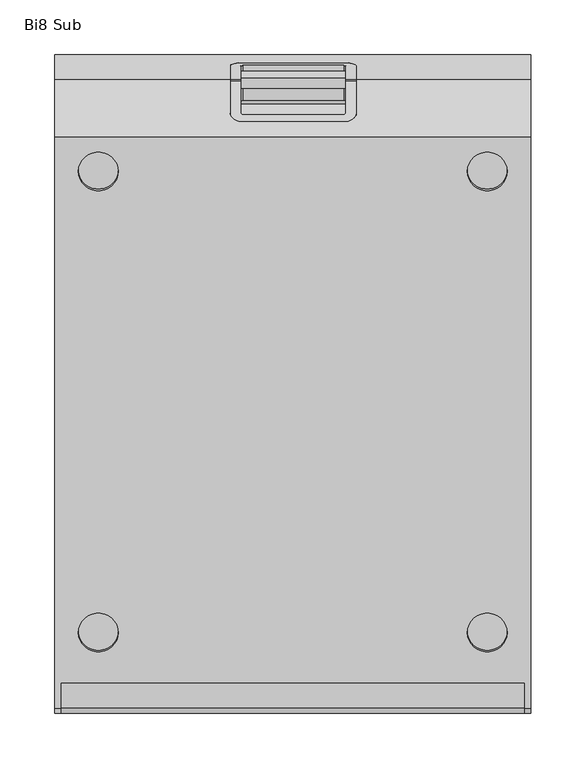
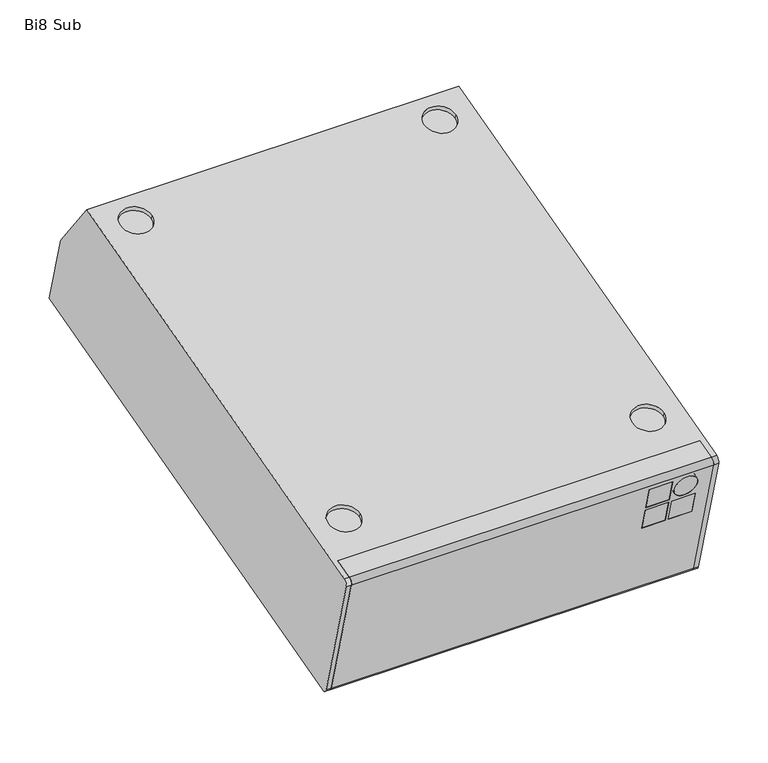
"""IFC4 building model written with IfcOpenShell, lengths in millimetres: proxy geometry, d&b Bi8 Subwoofer : Bi8 Sub."""

from ifc_helpers import new_model, si_unit, point, frame, frame_2d, origin, place, context, project, spatial, polyline, circle_curve, ellipse_curve, trimmed, segment, composite_curve, outline, extrude, source, transform, mapped, element, save
from ifc_brep_helpers import plane_surface, cylinder_surface, revolved_surface, advanced_brep


def bi8_sub_5dedd92b(model_context):
    return source(origin(), model_context, "Body", "SolidModel", [
        advanced_brep(
        [(-212.0, -299.8534418, -1.4056788), (-212.0, -295.6108011, 5.9427904), (-212.0, -251.6115635, -158.2646001), (-212.0, -258.9600327, -154.0219594), (212.0, -299.8534418, -1.4056788), (212.0, -258.9600327, -154.0219594), (212.0, -251.6115635, -158.2646001), (212.0, -295.6108011, 5.9427904), (164.8089888, -290.4138169, -36.6348387), (164.8089888, -283.2890229, -63.2249317), (137.2808989, -283.2890229, -63.2249317), (137.2808989, -290.4138169, -36.6348387), (196.2696629, -290.4138169, -36.6348387), (196.2696629, -283.2890229, -63.2249317), (168.741573, -283.2890229, -63.2249317), (168.741573, -290.4138169, -36.6348387), (164.8089888, -298.5564385, -6.2461611), (164.8089888, -291.4316446, -32.836254), (137.2808989, -291.4316446, -32.836254), (137.2808989, -298.5564385, -6.2461611), (168.741573, -294.9940415, -19.5412075), (196.2696629, -294.9940415, -19.5412075), (164.8089888, -277.493468, -61.6720174), (164.8089888, -284.6182619, -35.0819245), (137.2808989, -284.6182619, -35.0819245), (137.2808989, -277.493468, -61.6720174), (196.2696629, -277.493468, -61.6720174), (196.2696629, -284.6182619, -35.0819245), (168.741573, -284.6182619, -35.0819245), (168.741573, -277.493468, -61.6720174), (164.8089888, -285.6360896, -31.2833398), (164.8089888, -292.7608836, -4.6932468), (137.2808989, -292.7608836, -4.6932468), (137.2808989, -285.6360896, -31.2833398), (196.2696629, -289.1984866, -17.9882933), (168.741573, -289.1984866, -17.9882933)],
        [
            (0, 1, circle_curve(frame((-212.0, -294.0578869, 0.1472354), z_axis=(-1.0, 0.0, 0.0), x_axis=(0.0, 0.9659258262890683, 0.2588190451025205)), 6.0)),
            (1, 2),
            (2, 3, circle_curve(frame((-212.0, -253.1644777, -152.4690451), z_axis=(-1.0, 0.0, 0.0), x_axis=(0.0, 0.9659258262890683, 0.2588190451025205)), 6.0)),
            (3, 0),
            (4, 5),
            (5, 6, circle_curve(frame((212.0, -253.1644777, -152.4690451), z_axis=(1.0, 0.0, 0.0), x_axis=(0.0, 0.9659258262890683, 0.2588190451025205)), 6.0)),
            (6, 7),
            (7, 4, circle_curve(frame((212.0, -294.0578869, 0.1472354), z_axis=(1.0, 0.0, 0.0), x_axis=(0.0, 0.9659258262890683, 0.2588190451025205)), 6.0)),
            (3, 5),
            (4, 0),
            (8, 9),
            (9, 10),
            (10, 11),
            (11, 8),
            (12, 13),
            (13, 14),
            (14, 15),
            (15, 12),
            (16, 17),
            (17, 18),
            (18, 19),
            (19, 16),
            (20, 21, circle_curve(frame((182.505618, -294.9940415, -19.5412075), z_axis=(0.0, 0.9659258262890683, 0.2588190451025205), x_axis=(-1.0, 0.0, 0.0)), 13.7640449)),
            (21, 20, circle_curve(frame((182.505618, -294.9940415, -19.5412075), z_axis=(0.0, 0.9659258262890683, 0.2588190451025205), x_axis=(-1.0, 0.0, 0.0)), 13.7640449)),
            (2, 6),
            (7, 1),
            (22, 23),
            (23, 24),
            (24, 25),
            (25, 22),
            (26, 27),
            (27, 28),
            (28, 29),
            (29, 26),
            (30, 31),
            (31, 32),
            (32, 33),
            (33, 30),
            (34, 35, circle_curve(frame((182.505618, -289.1984866, -17.9882933), z_axis=(0.0, -0.9659258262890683, -0.2588190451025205), x_axis=(-1.0, 0.0, 0.0)), 13.7640449)),
            (35, 34, circle_curve(frame((182.505618, -289.1984866, -17.9882933), z_axis=(0.0, -0.9659258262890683, -0.2588190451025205), x_axis=(-1.0, 0.0, 0.0)), 13.7640449)),
            (23, 8),
            (11, 24),
            (10, 25),
            (9, 22),
            (31, 16),
            (19, 32),
            (18, 33),
            (17, 30),
            (12, 27),
            (26, 13),
            (15, 28),
            (14, 29),
            (20, 35),
            (34, 21),
        ],
        [
            plane_surface(frame((-212.0, -288.2623319, 1.7001497), z_axis=(-1.0, 0.0, 0.0), x_axis=(0.0, 0.2588190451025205, -0.9659258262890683))),
            plane_surface(frame((212.0, -288.2623319, 1.7001497), z_axis=(1.0, 0.0, 0.0), x_axis=(0.0, -0.2588190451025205, 0.9659258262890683))),
            plane_surface(frame((-212.0, -258.9600327, -154.0219594), z_axis=(0.0, -0.9659258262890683, -0.2588190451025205), x_axis=(1.0, 0.0, 0.0))),
            cylinder_surface(frame((212.0, -253.1644777, -152.4690451), z_axis=(-1.0, 0.0, 0.0), x_axis=(0.0, 0.9659258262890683, 0.2588190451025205)), 6.0),
            cylinder_surface(frame((212.0, -294.0578869, 0.1472354), z_axis=(-1.0, 0.0, 0.0), x_axis=(0.0, 0.9659258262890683, 0.2588190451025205)), 6.0),
            plane_surface(frame((-212.0, -295.6108011, 5.9427904), z_axis=(0.0, 0.9659258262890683, 0.2588190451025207), x_axis=(1.0, 0.0, 0.0))),
            plane_surface(frame((164.8089888, -290.4138169, -36.6348387), z_axis=(0.0, 0.2588190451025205, -0.9659258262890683), x_axis=(0.0, 0.9659258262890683, 0.2588190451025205))),
            plane_surface(frame((137.2808989, -290.4138169, -36.6348387), z_axis=(1.0, 0.0, 0.0), x_axis=(0.0, 0.9659258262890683, 0.2588190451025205))),
            plane_surface(frame((137.2808989, -283.2890229, -63.2249317), z_axis=(0.0, -0.2588190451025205, 0.9659258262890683), x_axis=(0.0, 0.9659258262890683, 0.2588190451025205))),
            plane_surface(frame((164.8089888, -298.5564385, -6.2461611), z_axis=(0.0, 0.2588190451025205, -0.9659258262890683), x_axis=(0.0, 0.9659258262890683, 0.2588190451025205))),
            plane_surface(frame((137.2808989, -298.5564385, -6.2461611), z_axis=(1.0, 0.0, 0.0), x_axis=(0.0, 0.9659258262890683, 0.2588190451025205))),
            plane_surface(frame((137.2808989, -291.4316446, -32.836254), z_axis=(0.0, -0.2588190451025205, 0.9659258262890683), x_axis=(0.0, 0.9659258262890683, 0.2588190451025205))),
            plane_surface(frame((164.8089888, -283.2890229, -63.2249317), z_axis=(-1.0, 0.0, 0.0), x_axis=(0.0, 0.9659258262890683, 0.2588190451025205))),
            plane_surface(frame((196.2696629, -283.2890229, -63.2249317), z_axis=(-1.0, 0.0, 0.0), x_axis=(0.0, 0.9659258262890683, 0.2588190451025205))),
            plane_surface(frame((196.2696629, -290.4138169, -36.6348387), z_axis=(0.0, 0.2588190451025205, -0.9659258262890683), x_axis=(0.0, 0.9659258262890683, 0.2588190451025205))),
            plane_surface(frame((168.741573, -290.4138169, -36.6348387), z_axis=(1.0, 0.0, 0.0), x_axis=(0.0, 0.9659258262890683, 0.2588190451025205))),
            plane_surface(frame((168.741573, -283.2890229, -63.2249317), z_axis=(0.0, -0.2588190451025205, 0.9659258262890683), x_axis=(0.0, 0.9659258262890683, 0.2588190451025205))),
            plane_surface(frame((164.8089888, -291.4316446, -32.836254), z_axis=(-1.0, 0.0, 0.0), x_axis=(0.0, 0.9659258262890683, 0.2588190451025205))),
            revolved_surface(polyline([(168.7415731, -294.9940415, -19.5412075), (168.7415731, -289.1984866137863, -17.988293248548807)]), (182.505618, -294.9940415, -19.5412075), (0.0, -0.9659258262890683, -0.2588190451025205)),
        ],
        [
            (0, [[1, 2, 3, 4]]),
            (1, [[5, 6, 7, 8]]),
            (2, [[-4, 9, -5, 10], [11, 12, 13, 14], [15, 16, 17, 18], [19, 20, 21, 22], [23, 24]]),
            (3, [[-3, 25, -6, -9]]),
            (4, [[-1, -10, -8, 26]]),
            (5, [[-2, -26, -7, -25], [27, 28, 29, 30], [31, 32, 33, 34], [35, 36, 37, 38], [39, 40]]),
            (6, [[41, -14, 42, -28]]),
            (7, [[-42, -13, 43, -29]]),
            (8, [[44, -30, -43, -12]]),
            (9, [[45, -22, 46, -36]]),
            (10, [[-46, -21, 47, -37]]),
            (11, [[48, -38, -47, -20]]),
            (12, [[-41, -27, -44, -11]]),
            (13, [[49, -31, 50, -15]]),
            (14, [[-49, -18, 51, -32]]),
            (15, [[-51, -17, 52, -33]]),
            (16, [[-50, -34, -52, -16]]),
            (17, [[-45, -35, -48, -19]]),
            (18, [[53, -39, 54, -23]]),
            (18, [[-53, -24, -54, -40]]),
        ],
    ),
        extrude(outline(polyline([(0.0, -27.5280899), (0.0, 0.0), (6.0, 0.0), (6.0, -27.5280899), (0.0, -27.5280899)])), frame((137.2808989, -283.2890229, -63.2249317), z_axis=(0.0, -0.2588190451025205, 0.9659258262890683), x_axis=(0.0, 0.9659258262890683, 0.2588190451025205)), (0.0, 0.0, 1.0), 27.5280899),
        extrude(outline(polyline([(0.0, -27.5280899), (0.0, 0.0), (6.0, 0.0), (6.0, -27.5280899), (0.0, -27.5280899)])), frame((168.741573, -283.2890229, -63.2249317), z_axis=(0.0, -0.2588190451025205, 0.9659258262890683), x_axis=(0.0, 0.9659258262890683, 0.2588190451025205)), (0.0, 0.0, 1.0), 27.5280899),
        extrude(outline(polyline([(0.0, -27.5280899), (0.0, 0.0), (6.0, 0.0), (6.0, -27.5280899), (0.0, -27.5280899)])), frame((137.2808989, -291.4316446, -32.836254), z_axis=(0.0, -0.2588190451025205, 0.9659258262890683), x_axis=(0.0, 0.9659258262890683, 0.2588190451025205)), (0.0, 0.0, 1.0), 27.5280899),
        extrude(outline(composite_curve([segment(trimmed(circle_curve(frame_2d((48.9606742, 17.6966292)), 13.7640449), [point((48.9606742, 31.4606741))], [point((48.9606742, 3.9325842))], False, "CARTESIAN"), True, "CONTINUOUS"), segment(trimmed(circle_curve(frame_2d((48.9606742, 17.6966292)), 13.7640449), [point((48.9606742, 3.9325842))], [point((48.9606742, 31.4606741))], False, "CARTESIAN"), True, "CONTINUOUS")], self_intersect=False)), frame((164.8089888, -282.3220866, -66.8335872), z_axis=(0.0, 0.9659258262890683, 0.2588190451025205), x_axis=(0.0, -0.2588190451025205, 0.9659258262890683)), (0.0, 0.0, 1.0), 6.0),
        extrude(outline(polyline([(0.0, -24.0000001), (0.0, 0.0), (424.0, 0.0), (424.0, -24.0000001), (0.0, -24.0000001)])), frame((-212.0, -228.4293436, -152.052943), z_axis=(0.0, -0.2588190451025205, 0.9659258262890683), x_axis=(1.0, 0.0, 0.0)), (0.0, 0.0, 1.0), 170.0),
        extrude(outline(composite_curve([segment(trimmed(circle_curve(frame_2d((0.0, -52.5)), 52.5), [point((0.0, -105.0))], [point((0.0, 0.0))], False, "CARTESIAN"), True, "CONTINUOUS"), segment(trimmed(circle_curve(frame_2d((0.0, -52.5)), 52.5), [point((0.0, 0.0))], [point((0.0, -105.0))], False, "CARTESIAN"), True, "CONTINUOUS")], self_intersect=False)), frame((52.5, 126.5483975, -56.9369439), z_axis=(0.0, -0.2588190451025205, 0.9659258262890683), x_axis=(0.0, -0.9659258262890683, -0.2588190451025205)), (0.0, 0.0, 1.0), 10.0),
        advanced_brep(
        [(-212.0, -272.4285813, 12.1544475), (212.0, -272.4285813, 12.1544475), (212.0, -295.6108011, 5.9427904), (218.0, -295.6108011, 5.9427904), (218.0, 227.2196145, 146.0347781), (-218.0, 227.2196145, 146.0347781), (-218.0, -295.6108011, 5.9427904), (-212.0, -295.6108011, 5.9427904), (159.7271934, 195.9767645, 137.6632816), (196.2271934, 195.9767645, 137.6632816), (-196.2271934, 195.9767645, 137.6632816), (-159.7271934, 195.9767645, 137.6632816), (159.7271934, -226.1765727, 24.5476358), (196.2271934, -226.1765727, 24.5476358), (-196.2271934, -226.1765727, 24.5476358), (-159.7271934, -226.1765727, 24.5476358), (218.0, 279.7949658, 76.2649304), (58.4448475, 279.7949658, 76.2649304), (58.4448475, 278.6251559, 77.8173205), (58.4448475, 249.2274637, 116.8293758), (46.4448475, 241.4385227, 127.1656495), (-45.487267, 241.4385227, 127.1656495), (-57.487267, 249.2274637, 116.8293758), (-57.487267, 278.6251559, 77.8173205), (-57.487267, 279.7949658, 76.2649304), (-218.0, 279.7949658, 76.2649304), (218.0, 302.8298608, -9.7024682), (-218.0, 302.8298608, -9.7024682), (-57.487267, 280.2980591, 74.3873608), (-57.487267, 292.4084099, 29.1909163), (-45.487267, 295.5142384, 17.5998064), (46.4448475, 295.5142384, 17.5998064), (58.4448475, 292.4084099, 29.1909163), (58.4448475, 280.2980591, 74.3873608), (212.0, -228.4293436, -152.052943), (-212.0, -228.4293436, -152.052943), (-212.0, -251.6115635, -158.2646001), (-218.0, -251.6115635, -158.2646001), (218.0, -251.6115635, -158.2646001), (212.0, -251.6115635, -158.2646001), (52.5, 126.5483975, -56.9369439), (-52.5, 126.5483975, -56.9369439), (212.0, -258.9600327, -154.0219594), (212.0, -299.8534418, -1.4056788), (218.0, -299.8534418, -1.4056788), (218.0, -258.9600327, -154.0219594), (218.0, 202.0949287, -5.6360265), (218.0, 237.3512214, 3.8108687), (218.0, 173.6248337, 100.6158144), (218.0, 208.8811264, 110.0627096), (218.0, -220.0146574, -118.7399492), (218.0, -184.7583647, -109.293054), (218.0, -248.4847524, -12.4881083), (218.0, -213.2284597, -3.0412132), (-212.0, -299.8534418, -1.4056788), (-212.0, -258.9600327, -154.0219594), (-218.0, -258.9600327, -154.0219594), (-218.0, -299.8534418, -1.4056788), (-52.5, 123.9602071, -47.2776856), (52.5, 123.9602071, -47.2776856), (-45.487267, 232.5809612, 124.792273), (46.4448475, 232.5809612, 124.792273), (56.6650566, 234.059163, 119.2755486), (-55.7074761, 234.059163, 119.2755486), (46.4448475, 263.594808, 9.0470208), (-45.487267, 263.594808, 9.0470208), (-51.3483362, 263.1991482, 10.5236434), (52.3059167, 263.1991482, 10.5236434), (-58.4448475, 263.1991482, 10.5236434), (-58.4448475, 234.059163, 119.2755486), (-58.4448475, 195.0683463, 89.8938607), (-58.4448475, 257.8918251, 6.5242886), (58.4448475, 257.8918251, 6.5242886), (58.4448475, 263.1991482, 10.5236434), (58.4448475, 195.0683463, 89.8938607), (58.4448475, 234.059163, 119.2755486), (-57.487267, 260.4889795, 20.6381307), (-57.487267, 235.6867897, 113.2011631), (58.4448475, 260.4889795, 20.6381307), (58.4448475, 235.6867897, 113.2011631), (212.5, 202.0949287, -5.6360265), (212.5, 237.3512214, 3.8108687), (212.5, 173.6248337, 100.6158144), (212.5, 208.8811264, 110.0627096), (212.5, -220.0146574, -118.7399492), (212.5, -184.7583647, -109.293054), (212.5, -248.4847524, -12.4881083), (212.5, -213.2284597, -3.0412132), (159.7271934, 197.4002692, 132.3506896), (196.2271934, 197.4002692, 132.3506896), (-196.2271934, 197.4002692, 132.3506896), (-159.7271934, 197.4002692, 132.3506896), (159.7271934, -224.753068, 19.2350438), (196.2271934, -224.753068, 19.2350438), (-196.2271934, -224.753068, 19.2350438), (-159.7271934, -224.753068, 19.2350438)],
        [
            (0, 1),
            (1, 2),
            (2, 3),
            (3, 4),
            (4, 5),
            (5, 6),
            (6, 7),
            (7, 0),
            (8, 9, circle_curve(frame((177.9771934, 195.9767645, 137.6632816), z_axis=(0.0, 0.2588190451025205, -0.9659258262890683), x_axis=(1.0, 0.0, 0.0)), 18.25)),
            (9, 8, circle_curve(frame((177.9771934, 195.9767645, 137.6632816), z_axis=(0.0, 0.2588190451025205, -0.9659258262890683), x_axis=(1.0, 0.0, 0.0)), 18.25)),
            (10, 11, circle_curve(frame((-177.9771934, 195.9767645, 137.6632816), z_axis=(0.0, 0.2588190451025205, -0.9659258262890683), x_axis=(1.0, 0.0, 0.0)), 18.25)),
            (11, 10, circle_curve(frame((-177.9771934, 195.9767645, 137.6632816), z_axis=(0.0, 0.2588190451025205, -0.9659258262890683), x_axis=(1.0, 0.0, 0.0)), 18.25)),
            (12, 13, circle_curve(frame((177.9771934, -226.1765727, 24.5476358), z_axis=(0.0, 0.2588190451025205, -0.9659258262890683), x_axis=(1.0, 0.0, 0.0)), 18.25)),
            (13, 12, circle_curve(frame((177.9771934, -226.1765727, 24.5476358), z_axis=(0.0, 0.2588190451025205, -0.9659258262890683), x_axis=(1.0, 0.0, 0.0)), 18.25)),
            (14, 15, circle_curve(frame((-177.9771934, -226.1765727, 24.5476358), z_axis=(0.0, 0.2588190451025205, -0.9659258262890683), x_axis=(1.0, 0.0, 0.0)), 18.25)),
            (15, 14, circle_curve(frame((-177.9771934, -226.1765727, 24.5476358), z_axis=(0.0, 0.2588190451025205, -0.9659258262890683), x_axis=(1.0, 0.0, 0.0)), 18.25)),
            (4, 16),
            (16, 17),
            (17, 18),
            (18, 19),
            (19, 20, ellipse_curve(frame((46.4448475, 249.2274637, 116.8293758), z_axis=(0.0, -0.7986355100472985, -0.6018150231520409), x_axis=(0.0, 0.6018150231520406, -0.7986355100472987)), 12.9424169, 12.0)),
            (20, 21),
            (21, 22, ellipse_curve(frame((-45.487267, 249.2274637, 116.8293758), z_axis=(0.0, -0.7986355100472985, -0.6018150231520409), x_axis=(0.0, 0.6018150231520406, -0.7986355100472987)), 12.9424169, 12.0)),
            (22, 23),
            (23, 24),
            (24, 25),
            (25, 5),
            (16, 26),
            (26, 27),
            (27, 25),
            (24, 28),
            (28, 29),
            (29, 30, circle_curve(frame((-45.487267, 292.4084099, 29.1909163), z_axis=(0.0, -0.9659258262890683, -0.2588190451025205), x_axis=(1.0, 0.0, 0.0)), 12.0)),
            (30, 31),
            (31, 32, circle_curve(frame((46.4448475, 292.4084099, 29.1909163), z_axis=(0.0, -0.9659258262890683, -0.2588190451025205), x_axis=(1.0, 0.0, 0.0)), 12.0)),
            (32, 33),
            (33, 17),
            (34, 35),
            (35, 36),
            (36, 37),
            (37, 27),
            (26, 38),
            (38, 39),
            (39, 34),
            (40, 41, circle_curve(frame((0.0, 126.5483975, -56.9369439), z_axis=(0.0, -0.2588190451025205, 0.9659258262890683), x_axis=(1.0, 0.0, 0.0)), 52.5)),
            (41, 40, circle_curve(frame((0.0, 126.5483975, -56.9369439), z_axis=(0.0, -0.2588190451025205, 0.9659258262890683), x_axis=(1.0, 0.0, 0.0)), 52.5)),
            (0, 35),
            (34, 1),
            (39, 42, circle_curve(frame((212.0, -253.1644777, -152.4690451), z_axis=(-1.0, 0.0, 0.0), x_axis=(0.0, 0.9659258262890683, 0.2588190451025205)), 6.0)),
            (42, 43),
            (43, 2, circle_curve(frame((212.0, -294.0578869, 0.1472354), z_axis=(-1.0, 0.0, 0.0), x_axis=(0.0, 0.9659258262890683, 0.2588190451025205)), 6.0)),
            (3, 44, circle_curve(frame((218.0, -294.0578869, 0.1472354), z_axis=(1.0, 0.0, 0.0), x_axis=(0.0, 0.9659258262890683, 0.2588190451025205)), 6.0)),
            (44, 45),
            (45, 38, circle_curve(frame((218.0, -253.1644777, -152.4690451), z_axis=(1.0, 0.0, 0.0), x_axis=(0.0, 0.9659258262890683, 0.2588190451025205)), 6.0)),
            (46, 47, circle_curve(frame((218.0, 219.723075, -0.9125789), z_axis=(-1.0, 0.0, 0.0), x_axis=(0.0, 0.9659258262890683, 0.2588190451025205)), 18.25)),
            (47, 46, circle_curve(frame((218.0, 219.723075, -0.9125789), z_axis=(-1.0, 0.0, 0.0), x_axis=(0.0, 0.9659258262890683, 0.2588190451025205)), 18.25)),
            (48, 49, circle_curve(frame((218.0, 191.2529801, 105.339262), z_axis=(-1.0, 0.0, 0.0), x_axis=(0.0, 0.9659258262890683, 0.2588190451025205)), 18.25)),
            (49, 48, circle_curve(frame((218.0, 191.2529801, 105.339262), z_axis=(-1.0, 0.0, 0.0), x_axis=(0.0, 0.9659258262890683, 0.2588190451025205)), 18.25)),
            (50, 51, circle_curve(frame((218.0, -202.3865111, -114.0165016), z_axis=(-1.0, 0.0, 0.0), x_axis=(0.0, 0.9659258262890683, 0.2588190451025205)), 18.25)),
            (51, 50, circle_curve(frame((218.0, -202.3865111, -114.0165016), z_axis=(-1.0, 0.0, 0.0), x_axis=(0.0, 0.9659258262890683, 0.2588190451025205)), 18.25)),
            (52, 53, circle_curve(frame((218.0, -230.856606, -7.7646607), z_axis=(-1.0, 0.0, 0.0), x_axis=(0.0, 0.9659258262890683, 0.2588190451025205)), 18.25)),
            (53, 52, circle_curve(frame((218.0, -230.856606, -7.7646607), z_axis=(-1.0, 0.0, 0.0), x_axis=(0.0, 0.9659258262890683, 0.2588190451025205)), 18.25)),
            (42, 45),
            (44, 43),
            (7, 54, circle_curve(frame((-212.0, -294.0578869, 0.1472354), z_axis=(1.0, 0.0, 0.0), x_axis=(0.0, 0.9659258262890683, 0.2588190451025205)), 6.0)),
            (54, 55),
            (55, 36, circle_curve(frame((-212.0, -253.1644777, -152.4690451), z_axis=(1.0, 0.0, 0.0), x_axis=(0.0, 0.9659258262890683, 0.2588190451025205)), 6.0)),
            (37, 56, circle_curve(frame((-218.0, -253.1644777, -152.4690451), z_axis=(-1.0, 0.0, 0.0), x_axis=(0.0, 0.9659258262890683, 0.2588190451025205)), 6.0)),
            (56, 57),
            (57, 6, circle_curve(frame((-218.0, -294.0578869, 0.1472354), z_axis=(-1.0, 0.0, 0.0), x_axis=(0.0, 0.9659258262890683, 0.2588190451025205)), 6.0)),
            (54, 57),
            (56, 55),
            (58, 59, circle_curve(frame((0.0, 123.9602071, -47.2776856), z_axis=(0.0, 0.2588190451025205, -0.9659258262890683), x_axis=(1.0, 0.0, 0.0)), 52.5)),
            (59, 58, circle_curve(frame((0.0, 123.9602071, -47.2776856), z_axis=(0.0, 0.2588190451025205, -0.9659258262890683), x_axis=(1.0, 0.0, 0.0)), 52.5)),
            (58, 41),
            (40, 59),
            (60, 61),
            (61, 62, circle_curve(frame((46.4448475, 235.6867897, 113.2011631), z_axis=(0.0, 0.9659258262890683, 0.2588190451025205), x_axis=(1.0, 0.0, 0.0)), 12.0)),
            (62, 63),
            (63, 60, circle_curve(frame((-45.487267, 235.6867897, 113.2011631), z_axis=(0.0, 0.9659258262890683, 0.2588190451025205), x_axis=(1.0, 0.0, 0.0)), 12.0)),
            (64, 65),
            (65, 66, circle_curve(frame((-45.487267, 260.4889795, 20.6381307), z_axis=(0.0, 0.9659258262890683, 0.2588190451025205), x_axis=(1.0, 0.0, 0.0)), 12.0)),
            (66, 67),
            (67, 64, circle_curve(frame((46.4448475, 260.4889795, 20.6381307), z_axis=(0.0, 0.9659258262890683, 0.2588190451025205), x_axis=(1.0, 0.0, 0.0)), 12.0)),
            (60, 21),
            (20, 61),
            (64, 31),
            (30, 65),
            (68, 69),
            (69, 70),
            (70, 71),
            (71, 68),
            (71, 72),
            (72, 73),
            (73, 67),
            (66, 68),
            (70, 74),
            (74, 72),
            (69, 63),
            (62, 75),
            (75, 74),
            (66, 76, circle_curve(frame((-45.487267, 260.4889795, 20.6381307), z_axis=(0.0, 0.9659258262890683, 0.2588190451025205), x_axis=(1.0, 0.0, 0.0)), 12.0)),
            (76, 77),
            (77, 63, circle_curve(frame((-45.487267, 235.6867897, 113.2011631), z_axis=(0.0, 0.9659258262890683, 0.2588190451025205), x_axis=(1.0, 0.0, 0.0)), 12.0)),
            (73, 78),
            (78, 67, circle_curve(frame((46.4448475, 260.4889795, 20.6381307), z_axis=(0.0, 0.9659258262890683, 0.2588190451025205), x_axis=(1.0, 0.0, 0.0)), 12.0)),
            (79, 75),
            (62, 79, circle_curve(frame((46.4448475, 235.6867897, 113.2011631), z_axis=(0.0, 0.9659258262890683, 0.2588190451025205), x_axis=(1.0, 0.0, 0.0)), 12.0)),
            (76, 29),
            (22, 77),
            (19, 79),
            (32, 78),
            (80, 81, circle_curve(frame((212.5, 219.723075, -0.9125789), z_axis=(1.0, 0.0, 0.0), x_axis=(0.0, 0.9659258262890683, 0.2588190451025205)), 18.25)),
            (81, 80, circle_curve(frame((212.5, 219.723075, -0.9125789), z_axis=(1.0, 0.0, 0.0), x_axis=(0.0, 0.9659258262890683, 0.2588190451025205)), 18.25)),
            (82, 83, circle_curve(frame((212.5, 191.2529801, 105.339262), z_axis=(1.0, 0.0, 0.0), x_axis=(0.0, 0.9659258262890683, 0.2588190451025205)), 18.25)),
            (83, 82, circle_curve(frame((212.5, 191.2529801, 105.339262), z_axis=(1.0, 0.0, 0.0), x_axis=(0.0, 0.9659258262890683, 0.2588190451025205)), 18.25)),
            (84, 85, circle_curve(frame((212.5, -202.3865111, -114.0165016), z_axis=(1.0, 0.0, 0.0), x_axis=(0.0, 0.9659258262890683, 0.2588190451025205)), 18.25)),
            (85, 84, circle_curve(frame((212.5, -202.3865111, -114.0165016), z_axis=(1.0, 0.0, 0.0), x_axis=(0.0, 0.9659258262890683, 0.2588190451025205)), 18.25)),
            (86, 87, circle_curve(frame((212.5, -230.856606, -7.7646607), z_axis=(1.0, 0.0, 0.0), x_axis=(0.0, 0.9659258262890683, 0.2588190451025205)), 18.25)),
            (87, 86, circle_curve(frame((212.5, -230.856606, -7.7646607), z_axis=(1.0, 0.0, 0.0), x_axis=(0.0, 0.9659258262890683, 0.2588190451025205)), 18.25)),
            (81, 47),
            (46, 80),
            (83, 49),
            (48, 82),
            (85, 51),
            (50, 84),
            (87, 53),
            (52, 86),
            (88, 89, circle_curve(frame((177.9771934, 197.4002692, 132.3506896), z_axis=(0.0, -0.2588190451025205, 0.9659258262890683), x_axis=(1.0, 0.0, 0.0)), 18.25)),
            (89, 88, circle_curve(frame((177.9771934, 197.4002692, 132.3506896), z_axis=(0.0, -0.2588190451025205, 0.9659258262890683), x_axis=(1.0, 0.0, 0.0)), 18.25)),
            (90, 91, circle_curve(frame((-177.9771934, 197.4002692, 132.3506896), z_axis=(0.0, -0.2588190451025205, 0.9659258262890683), x_axis=(1.0, 0.0, 0.0)), 18.25)),
            (91, 90, circle_curve(frame((-177.9771934, 197.4002692, 132.3506896), z_axis=(0.0, -0.2588190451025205, 0.9659258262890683), x_axis=(1.0, 0.0, 0.0)), 18.25)),
            (92, 93, circle_curve(frame((177.9771934, -224.753068, 19.2350438), z_axis=(0.0, -0.2588190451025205, 0.9659258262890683), x_axis=(1.0, 0.0, 0.0)), 18.25)),
            (93, 92, circle_curve(frame((177.9771934, -224.753068, 19.2350438), z_axis=(0.0, -0.2588190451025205, 0.9659258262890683), x_axis=(1.0, 0.0, 0.0)), 18.25)),
            (94, 95, circle_curve(frame((-177.9771934, -224.753068, 19.2350438), z_axis=(0.0, -0.2588190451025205, 0.9659258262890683), x_axis=(1.0, 0.0, 0.0)), 18.25)),
            (95, 94, circle_curve(frame((-177.9771934, -224.753068, 19.2350438), z_axis=(0.0, -0.2588190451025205, 0.9659258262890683), x_axis=(1.0, 0.0, 0.0)), 18.25)),
            (89, 9),
            (8, 88),
            (91, 11),
            (10, 90),
            (93, 13),
            (12, 92),
            (95, 15),
            (14, 94),
        ],
        [
            plane_surface(frame((-212.0, -272.4285813, 12.1544475), z_axis=(0.0, -0.2588190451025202, 0.9659258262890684), x_axis=(1.0, 0.0, 0.0))),
            plane_surface(frame((-212.0, 227.2196145, 146.0347781), z_axis=(0.0, 0.7986355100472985, 0.6018150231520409), x_axis=(1.0, 0.0, 0.0))),
            plane_surface(frame((-212.0, 279.7949658, 76.2649304), z_axis=(0.0, 0.965925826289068, 0.258819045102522), x_axis=(1.0, 0.0, 0.0))),
            plane_surface(frame((-212.0, 302.8298608, -9.7024682), z_axis=(0.0, 0.2588190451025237, -0.9659258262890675), x_axis=(1.0, 0.0, 0.0))),
            plane_surface(frame((-212.0, -228.4293436, -152.052943), z_axis=(0.0, -0.9659258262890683, -0.2588190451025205), x_axis=(1.0, 0.0, 0.0))),
            plane_surface(frame((212.0, -247.3689228, -150.9161308), z_axis=(-1.0, 0.0, 0.0), x_axis=(0.0, 0.2588190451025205, -0.9659258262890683))),
            plane_surface(frame((218.0, -247.3689228, -150.9161308), z_axis=(1.0, 0.0, 0.0), x_axis=(0.0, -0.2588190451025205, 0.9659258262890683))),
            plane_surface(frame((212.0, -258.9600327, -154.0219594), z_axis=(0.0, -0.9659258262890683, -0.25881904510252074), x_axis=(1.0, 0.0, 0.0))),
            cylinder_surface(frame((218.0, -253.1644777, -152.4690451), z_axis=(-1.0, 0.0, 0.0), x_axis=(0.0, 0.9659258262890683, 0.2588190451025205)), 6.0),
            cylinder_surface(frame((218.0, -294.0578869, 0.1472354), z_axis=(-1.0, 0.0, 0.0), x_axis=(0.0, 0.9659258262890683, 0.2588190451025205)), 6.0),
            plane_surface(frame((-212.0, 277.7157893, -16.4317633), z_axis=(1.0, 0.0, 0.0), x_axis=(0.0, 0.9659258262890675, 0.2588190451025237))),
            plane_surface(frame((-218.0, 277.7157893, -16.4317633), z_axis=(-1.0, 0.0, 0.0), x_axis=(0.0, -0.9659258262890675, -0.2588190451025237))),
            plane_surface(frame((-212.0, -299.8534418, -1.4056788), z_axis=(0.0, -0.9659258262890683, -0.2588190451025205), x_axis=(-1.0, 0.0, 0.0))),
            cylinder_surface(frame((-218.0, -294.0578869, 0.1472354), z_axis=(1.0, 0.0, 0.0), x_axis=(0.0, 0.9659258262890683, 0.2588190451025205)), 6.0),
            cylinder_surface(frame((-218.0, -253.1644777, -152.4690451), z_axis=(1.0, 0.0, 0.0), x_axis=(0.0, 0.9659258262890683, 0.2588190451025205)), 6.0),
            plane_surface(frame((52.5, 123.9602071, -47.2776856), z_axis=(0.0, 0.2588190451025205, -0.9659258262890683), x_axis=(0.0, 0.9659258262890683, 0.2588190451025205))),
            revolved_surface(polyline([(52.5, 126.5483975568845, -56.936943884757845), (52.5, 123.9602071, -47.2776856)]), (0.0, 123.9602071, -47.2776856), (0.0, 0.2588190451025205, -0.9659258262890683)),
            plane_surface(frame((-33.487267, 260.4889795, 20.6381307), z_axis=(0.0, 0.9659258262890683, 0.2588190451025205), x_axis=(0.0, -0.2588190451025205, 0.9659258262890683))),
            plane_surface(frame((-45.487267, 264.5003915, 133.3450586), z_axis=(0.0, 0.2588190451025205, -0.9659258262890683), x_axis=(0.0, -0.9659258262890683, -0.2588190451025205))),
            plane_surface(frame((46.4448475, 295.5142384, 17.5998064), z_axis=(0.0, -0.2588190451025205, 0.9659258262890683), x_axis=(0.0, -0.9659258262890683, -0.2588190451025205))),
            plane_surface(frame((-58.4448475, 257.8918251, 6.5242886), z_axis=(1.0000000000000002, 0.0, 0.0), x_axis=(0.0, -0.7986355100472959, -0.6018150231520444))),
            plane_surface(frame((-58.4448475, 263.1991482, 10.5236434), z_axis=(0.0, -0.6018150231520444, 0.7986355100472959), x_axis=(1.0, 0.0, 0.0))),
            plane_surface(frame((-58.4448475, 257.8918251, 6.5242886), z_axis=(0.0, 0.7986355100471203, 0.6018150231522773), x_axis=(1.0, 0.0, 0.0))),
            plane_surface(frame((-58.4448475, 195.0683463, 89.8938607), z_axis=(0.0, 0.6018150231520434, -0.7986355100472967), x_axis=(1.0, 0.0, 0.0))),
            plane_surface(frame((-58.4448475, 234.059163, 119.2755486), z_axis=(0.0, -0.9659258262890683, -0.2588190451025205), x_axis=(1.0, 0.0, 0.0))),
            plane_surface(frame((-57.487267, 292.4084099, 29.1909163), z_axis=(1.0, 0.0, 0.0), x_axis=(0.0, -0.9659258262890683, -0.2588190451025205))),
            revolved_surface(polyline([(-33.487267, 253.91057609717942, 118.08421194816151), (-33.487267, 235.6867896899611, 113.20116309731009)]), (-45.487267, 235.6867897, 113.2011631), (0.0, 0.9659258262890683, 0.2588190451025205)),
            revolved_surface(polyline([(58.4448475, 253.91057609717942, 118.08421194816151), (58.4448475, 235.6867896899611, 113.20116309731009)]), (46.4448475, 235.6867897, 113.2011631), (0.0, 0.9659258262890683, 0.2588190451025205)),
            plane_surface(frame((58.4448475, 267.6062201, 121.7539487), z_axis=(-1.0, 0.0, 0.0), x_axis=(0.0, -0.9659258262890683, -0.2588190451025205))),
            revolved_surface(polyline([(-33.487267, 292.40840990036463, 29.190916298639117), (-33.487267, 260.48897946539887, 20.638130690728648)]), (-45.487267, 260.4889795, 20.6381307), (0.0, 0.9659258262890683, 0.2588190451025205)),
            revolved_surface(polyline([(58.4448475, 292.40840990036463, 29.190916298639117), (58.4448475, 260.48897946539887, 20.638130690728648)]), (46.4448475, 260.4889795, 20.6381307), (0.0, 0.9659258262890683, 0.2588190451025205)),
            plane_surface(frame((212.5, 237.3512214, 3.8108687), z_axis=(1.0, 0.0, 0.0), x_axis=(0.0, 0.2588190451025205, -0.9659258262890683))),
            revolved_surface(polyline([(212.5, 237.35122132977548, 3.810868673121), (218.0, 237.35122132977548, 3.810868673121)]), (218.0, 219.723075, -0.9125789), (-1.0, 0.0, 0.0)),
            revolved_surface(polyline([(212.5, 208.8811264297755, 110.062709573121), (218.0, 208.8811264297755, 110.062709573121)]), (218.0, 191.2529801, 105.339262), (-1.0, 0.0, 0.0)),
            revolved_surface(polyline([(212.5, -184.75836477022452, -109.29305402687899), (218.0, -184.75836477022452, -109.29305402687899)]), (218.0, -202.3865111, -114.0165016), (-1.0, 0.0, 0.0)),
            revolved_surface(polyline([(212.5, -213.2284596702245, -3.0412131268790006), (218.0, -213.2284596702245, -3.0412131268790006)]), (218.0, -230.856606, -7.7646607), (-1.0, 0.0, 0.0)),
            plane_surface(frame((196.2271934, 197.4002692, 132.3506896), z_axis=(0.0, -0.2588190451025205, 0.9659258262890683), x_axis=(0.0, -0.9659258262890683, -0.2588190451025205))),
            revolved_surface(polyline([(196.2271934, 197.40026923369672, 132.35068960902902), (196.2271934, 195.9767645, 137.6632816)]), (177.9771934, 195.9767645, 137.6632816), (0.0, 0.2588190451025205, -0.9659258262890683)),
            revolved_surface(polyline([(-159.7271934, 197.40026923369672, 132.35068960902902), (-159.7271934, 195.9767645, 137.6632816)]), (-177.9771934, 195.9767645, 137.6632816), (0.0, 0.2588190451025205, -0.9659258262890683)),
            revolved_surface(polyline([(196.2271934, -224.7530679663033, 19.235043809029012), (196.2271934, -226.1765727, 24.5476358)]), (177.9771934, -226.1765727, 24.5476358), (0.0, 0.2588190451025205, -0.9659258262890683)),
            revolved_surface(polyline([(-159.7271934, -224.7530679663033, 19.235043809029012), (-159.7271934, -226.1765727, 24.5476358)]), (-177.9771934, -226.1765727, 24.5476358), (0.0, 0.2588190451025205, -0.9659258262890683)),
        ],
        [
            (0, [[1, 2, 3, 4, 5, 6, 7, 8], [9, 10], [11, 12], [13, 14], [15, 16]]),
            (1, [[17, 18, 19, 20, 21, 22, 23, 24, 25, 26, 27, -5]]),
            (2, [[28, 29, 30, -26, 31, 32, 33, 34, 35, 36, 37, -18]]),
            (3, [[38, 39, 40, 41, -29, 42, 43, 44], [45, 46]]),
            (4, [[-1, 47, -38, 48]]),
            (5, [[49, 50, 51, -2, -48, -44]]),
            (6, [[-42, -28, -17, -4, 52, 53, 54], [55, 56], [57, 58], [59, 60], [61, 62]]),
            (7, [[-50, 63, -53, 64]]),
            (8, [[-49, -43, -54, -63]]),
            (9, [[-51, -64, -52, -3]]),
            (10, [[65, 66, 67, -39, -47, -8]]),
            (11, [[68, 69, 70, -6, -27, -30, -41]]),
            (12, [[-66, 71, -69, 72]]),
            (13, [[-65, -7, -70, -71]]),
            (14, [[-67, -72, -68, -40]]),
            (15, [[73, 74]]),
            (16, [[-73, 75, -45, 76]]),
            (16, [[-74, -76, -46, -75]]),
            (17, [[77, 78, 79, 80]]),
            (17, [[81, 82, 83, 84]]),
            (18, [[-77, 85, -22, 86]]),
            (19, [[-81, 87, -34, 88]]),
            (20, [[89, 90, 91, 92]]),
            (21, [[-92, 93, 94, 95, -83, 96]]),
            (22, [[-91, 97, 98, -93]]),
            (23, [[-90, 99, -79, 100, 101, -97]]),
            (24, [[-89, -96, 102, 103, 104, -99]]),
            (24, [[105, 106, -95]]),
            (24, [[107, -100, 108]]),
            (25, [[109, -32, -31, -25, -24, 110, -103]]),
            (26, [[-85, -80, -104, -110, -23]]),
            (27, [[-86, -21, 111, -108, -78]]),
            (28, [[112, -105, -94, -98, -101, -107, -111, -20, -19, -37, -36]]),
            (29, [[-88, -33, -109, -102, -82]]),
            (30, [[-87, -84, -106, -112, -35]]),
            (31, [[113, 114]]),
            (31, [[115, 116]]),
            (31, [[117, 118]]),
            (31, [[119, 120]]),
            (32, [[-114, 121, -55, 122]]),
            (32, [[-113, -122, -56, -121]]),
            (33, [[-116, 123, -57, 124]]),
            (33, [[-115, -124, -58, -123]]),
            (34, [[-118, 125, -59, 126]]),
            (34, [[-117, -126, -60, -125]]),
            (35, [[-120, 127, -61, 128]]),
            (35, [[-119, -128, -62, -127]]),
            (36, [[129, 130]]),
            (36, [[131, 132]]),
            (36, [[133, 134]]),
            (36, [[135, 136]]),
            (37, [[-130, 137, -9, 138]]),
            (37, [[-129, -138, -10, -137]]),
            (38, [[-132, 139, -11, 140]]),
            (38, [[-131, -140, -12, -139]]),
            (39, [[-134, 141, -13, 142]]),
            (39, [[-133, -142, -14, -141]]),
            (40, [[-136, 143, -15, 144]]),
            (40, [[-135, -144, -16, -143]]),
        ],
    ),
        advanced_brep(
        [(58.4448475, 278.6251559, 77.8173205), (48.4448475, 278.6251559, 77.8173205), (48.4448475, 249.2274637, 116.8293758), (46.4448475, 247.9293069, 118.5520881), (-45.487267, 247.9293069, 118.5520881), (-47.487267, 249.2274637, 116.8293758), (-47.487267, 278.6251559, 77.8173205), (-57.487267, 278.6251559, 77.8173205), (-57.487267, 249.2274637, 116.8293758), (-45.487267, 241.4385227, 127.1656495), (46.4448475, 241.4385227, 127.1656495), (58.4448475, 249.2274637, 116.8293758), (48.4448475, 280.2980591, 74.3873608), (58.4448475, 280.2980591, 74.3873608), (58.4448475, 292.4084099, 29.1909163), (46.4448475, 295.5142384, 17.5998064), (-45.487267, 295.5142384, 17.5998064), (-57.487267, 292.4084099, 29.1909163), (-57.487267, 280.2980591, 74.3873608), (-47.487267, 280.2980591, 74.3873608), (-47.487267, 292.4084099, 29.1909163), (-45.487267, 292.926048, 27.2590646), (46.4448475, 292.926048, 27.2590646), (48.4448475, 292.4084099, 29.1909163), (-45.487267, 263.594808, 9.0470208), (46.4448475, 263.594808, 9.0470208), (58.4448475, 260.4889795, 20.6381307), (58.4448475, 235.6867897, 113.2011631), (46.4448475, 232.5809612, 124.792273), (-45.487267, 232.5809612, 124.792273), (-57.487267, 235.6867897, 113.2011631), (-57.487267, 260.4889795, 20.6381307), (-45.487267, 261.0066176, 18.7062791), (-47.487267, 260.4889795, 20.6381307), (-47.487267, 235.6867897, 113.2011631), (-45.487267, 235.1691516, 115.1330148), (46.4448475, 235.1691516, 115.1330148), (48.4448475, 235.6867897, 113.2011631), (48.4448475, 260.4889795, 20.6381307), (46.4448475, 261.0066176, 18.7062791)],
        [
            (0, 1),
            (1, 2),
            (2, 3, ellipse_curve(frame((46.4448475, 249.2274637, 116.8293758), z_axis=(0.0, -0.7986355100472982, -0.6018150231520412), x_axis=(0.0, -0.6018150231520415, 0.798635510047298)), 2.1570695, 2.0)),
            (3, 4),
            (4, 5, ellipse_curve(frame((-45.487267, 249.2274637, 116.8293758), z_axis=(0.0, -0.7986355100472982, -0.6018150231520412), x_axis=(0.0, -0.6018150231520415, 0.798635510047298)), 2.1570695, 2.0)),
            (5, 6),
            (6, 7),
            (7, 8),
            (8, 9, ellipse_curve(frame((-45.487267, 249.2274637, 116.8293758), z_axis=(0.0, 0.7986355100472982, 0.6018150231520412), x_axis=(0.0, 0.6018150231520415, -0.798635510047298)), 12.9424169, 12.0)),
            (9, 10),
            (10, 11, ellipse_curve(frame((46.4448475, 249.2274637, 116.8293758), z_axis=(0.0, 0.7986355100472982, 0.6018150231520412), x_axis=(0.0, 0.6018150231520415, -0.798635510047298)), 12.9424169, 12.0)),
            (11, 0),
            (12, 13),
            (13, 14),
            (14, 15, circle_curve(frame((46.4448475, 292.4084099, 29.1909163), z_axis=(0.0, 0.9659258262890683, 0.2588190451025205), x_axis=(1.0, 0.0, 0.0)), 12.0)),
            (15, 16),
            (16, 17, circle_curve(frame((-45.487267, 292.4084099, 29.1909163), z_axis=(0.0, 0.9659258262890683, 0.2588190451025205), x_axis=(1.0, 0.0, 0.0)), 12.0)),
            (17, 18),
            (18, 19),
            (19, 20),
            (20, 21, circle_curve(frame((-45.487267, 292.4084099, 29.1909163), z_axis=(0.0, -0.9659258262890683, -0.2588190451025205), x_axis=(1.0, 0.0, 0.0)), 2.0)),
            (21, 22),
            (22, 23, circle_curve(frame((46.4448475, 292.4084099, 29.1909163), z_axis=(0.0, -0.9659258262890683, -0.2588190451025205), x_axis=(1.0, 0.0, 0.0)), 2.0)),
            (23, 12),
            (24, 25),
            (25, 26, circle_curve(frame((46.4448475, 260.4889795, 20.6381307), z_axis=(0.0, -0.9659258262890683, -0.2588190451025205), x_axis=(1.0, 0.0, 0.0)), 12.0)),
            (26, 27),
            (27, 28, circle_curve(frame((46.4448475, 235.6867897, 113.2011631), z_axis=(0.0, -0.9659258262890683, -0.2588190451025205), x_axis=(1.0, 0.0, 0.0)), 12.0)),
            (28, 29),
            (29, 30, circle_curve(frame((-45.487267, 235.6867897, 113.2011631), z_axis=(0.0, -0.9659258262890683, -0.2588190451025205), x_axis=(1.0, 0.0, 0.0)), 12.0)),
            (30, 31),
            (31, 24, circle_curve(frame((-45.487267, 260.4889795, 20.6381307), z_axis=(0.0, -0.9659258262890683, -0.2588190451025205), x_axis=(1.0, 0.0, 0.0)), 12.0)),
            (32, 33, circle_curve(frame((-45.487267, 260.4889795, 20.6381307), z_axis=(0.0, 0.9659258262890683, 0.2588190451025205), x_axis=(1.0, 0.0, 0.0)), 2.0)),
            (33, 34),
            (34, 35, circle_curve(frame((-45.487267, 235.6867897, 113.2011631), z_axis=(0.0, 0.9659258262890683, 0.2588190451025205), x_axis=(1.0, 0.0, 0.0)), 2.0)),
            (35, 36),
            (36, 37, circle_curve(frame((46.4448475, 235.6867897, 113.2011631), z_axis=(0.0, 0.9659258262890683, 0.2588190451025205), x_axis=(1.0, 0.0, 0.0)), 2.0)),
            (37, 38),
            (38, 39, circle_curve(frame((46.4448475, 260.4889795, 20.6381307), z_axis=(0.0, 0.9659258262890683, 0.2588190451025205), x_axis=(1.0, 0.0, 0.0)), 2.0)),
            (39, 32),
            (31, 17),
            (16, 24),
            (30, 8),
            (7, 18, circle_curve(frame((-57.487267, 270.6388008, 71.7991703), z_axis=(-1.0, 0.0, 0.0), x_axis=(0.0, 0.9659258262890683, 0.2588190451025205)), 10.0)),
            (29, 9),
            (28, 10),
            (27, 11),
            (26, 14),
            (13, 0, circle_curve(frame((58.4448475, 270.6388008, 71.7991703), z_axis=(1.0, 0.0, 0.0), x_axis=(0.0, 0.9659258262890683, 0.2588190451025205)), 10.0)),
            (25, 15),
            (39, 22),
            (21, 32),
            (38, 23),
            (37, 2),
            (1, 12, circle_curve(frame((48.4448475, 270.6388008, 71.7991703), z_axis=(-1.0, 0.0, 0.0), x_axis=(0.0, 0.9659258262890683, 0.2588190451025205)), 10.0)),
            (36, 3),
            (35, 4),
            (34, 5),
            (33, 20),
            (19, 6, circle_curve(frame((-47.487267, 270.6388008, 71.7991703), z_axis=(1.0, 0.0, 0.0), x_axis=(0.0, 0.9659258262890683, 0.2588190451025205)), 10.0)),
        ],
        [
            plane_surface(frame((-57.487267, 278.6251559, 77.8173205), z_axis=(0.0, 0.7986355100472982, 0.6018150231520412), x_axis=(1.0, 0.0, 0.0))),
            plane_surface(frame((-57.487267, 298.1024289, 7.9405481), z_axis=(0.0, 0.9659258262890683, 0.2588190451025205), x_axis=(1.0, 0.0, 0.0))),
            plane_surface(frame((-33.487267, 260.4889795, 20.6381307), z_axis=(0.0, -0.9659258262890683, -0.2588190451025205), x_axis=(0.0, -0.2588190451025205, 0.9659258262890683))),
            cylinder_surface(frame((-45.487267, 260.4889795, 20.6381307), z_axis=(0.0, 0.9659258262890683, 0.2588190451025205), x_axis=(1.0, 0.0, 0.0)), 12.0),
            plane_surface(frame((-57.487267, 306.8972973, 33.073202), z_axis=(-1.0, 0.0, 0.0), x_axis=(0.0, -0.9659258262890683, -0.2588190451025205))),
            cylinder_surface(frame((-45.487267, 235.6867897, 113.2011631), z_axis=(0.0, 0.9659258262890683, 0.2588190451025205), x_axis=(1.0, 0.0, 0.0)), 12.0),
            plane_surface(frame((-45.487267, 278.9892789, 137.2273443), z_axis=(0.0, -0.2588190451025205, 0.9659258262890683), x_axis=(0.0, -0.9659258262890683, -0.2588190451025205))),
            cylinder_surface(frame((46.4448475, 235.6867897, 113.2011631), z_axis=(0.0, 0.9659258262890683, 0.2588190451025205), x_axis=(1.0, 0.0, 0.0)), 12.0),
            plane_surface(frame((58.4448475, 282.0951075, 125.6362344), z_axis=(1.0, 0.0, 0.0), x_axis=(0.0, -0.9659258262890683, -0.2588190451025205))),
            cylinder_surface(frame((46.4448475, 260.4889795, 20.6381307), z_axis=(0.0, 0.9659258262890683, 0.2588190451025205), x_axis=(1.0, 0.0, 0.0)), 12.0),
            plane_surface(frame((46.4448475, 310.0031258, 21.4820921), z_axis=(0.0, 0.2588190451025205, -0.9659258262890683), x_axis=(0.0, -0.9659258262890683, -0.2588190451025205))),
            plane_surface(frame((-45.487267, 307.4149354, 31.1413503), z_axis=(0.0, -0.2588190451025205, 0.9659258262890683), x_axis=(0.0, -0.9659258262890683, -0.2588190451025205))),
            revolved_surface(polyline([(48.4448475, 260.4889794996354, 20.638130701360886), (48.4448475, 292.4084099, 29.1909163)]), (46.4448475, 292.4084099, 29.1909163), (0.0, -0.9659258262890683, -0.2588190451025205)),
            plane_surface(frame((48.4448475, 306.8972973, 33.073202), z_axis=(-1.0, 0.0, 0.0), x_axis=(0.0, -0.9659258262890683, -0.2588190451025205))),
            revolved_surface(polyline([(48.4448475, 235.68678969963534, 113.20116310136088), (48.4448475, 250.00798244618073, 117.03851513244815)]), (46.4448475, 267.6062201, 121.7539487), (0.0, -0.9659258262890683, -0.2588190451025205)),
            plane_surface(frame((46.4448475, 281.5774694, 127.568086), z_axis=(0.0, 0.2588190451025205, -0.9659258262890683), x_axis=(0.0, -0.9659258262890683, -0.2588190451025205))),
            revolved_surface(polyline([(-43.487267, 235.68678969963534, 113.20116310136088), (-43.487267, 250.00798244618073, 117.03851513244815)]), (-45.487267, 267.6062201, 121.7539487), (0.0, -0.9659258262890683, -0.2588190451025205)),
            plane_surface(frame((-47.487267, 282.0951075, 125.6362344), z_axis=(1.0, 0.0, 0.0), x_axis=(0.0, -0.9659258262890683, -0.2588190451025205))),
            revolved_surface(polyline([(-43.487267, 260.4889794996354, 20.638130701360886), (-43.487267, 292.4084099, 29.1909163)]), (-45.487267, 292.4084099, 29.1909163), (0.0, -0.9659258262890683, -0.2588190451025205)),
            cylinder_surface(frame((58.4448475, 270.6388008, 71.7991703), z_axis=(1.0, 0.0, 0.0), x_axis=(0.0, 0.9659258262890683, 0.2588190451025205)), 10.0),
        ],
        [
            (0, [[1, 2, 3, 4, 5, 6, 7, 8, 9, 10, 11, 12]]),
            (1, [[13, 14, 15, 16, 17, 18, 19, 20, 21, 22, 23, 24]]),
            (2, [[25, 26, 27, 28, 29, 30, 31, 32], [33, 34, 35, 36, 37, 38, 39, 40]]),
            (3, [[-32, 41, -17, 42]]),
            (4, [[-31, 43, -8, 44, -18, -41]]),
            (5, [[-30, 45, -9, -43]]),
            (6, [[-29, 46, -10, -45]]),
            (7, [[-28, 47, -11, -46]]),
            (8, [[-27, 48, -14, 49, -12, -47]]),
            (9, [[-26, 50, -15, -48]]),
            (10, [[-25, -42, -16, -50]]),
            (11, [[-40, 51, -22, 52]]),
            (12, [[-39, 53, -23, -51]]),
            (13, [[-38, 54, -2, 55, -24, -53]]),
            (14, [[-37, 56, -3, -54]]),
            (15, [[-36, 57, -4, -56]]),
            (16, [[-35, 58, -5, -57]]),
            (17, [[-34, 59, -20, 60, -6, -58]]),
            (18, [[-33, -52, -21, -59]]),
            (19, [[-1, -49, -13, -55]]),
            (19, [[-7, -60, -19, -44]]),
        ],
    ),
        extrude(outline(composite_curve([segment(polyline([(549.4413694, -599.4971634), (526.6808729, -599.4971634)]), True, "CONTINUOUS"), segment(trimmed(circle_curve(frame_2d((1076.1222421, -551.5311062)), 551.5311061), [point((526.6808729, -599.4971634))], [point((526.6808729, -503.5650489))], False, "CARTESIAN"), True, "CONTINUOUS"), segment(polyline([(526.6808729, -503.5650489), (549.4413694, -503.5650489)]), True, "CONTINUOUS"), segment(trimmed(circle_curve(frame_2d((0.0, -551.5311062)), 551.5311061), [point((549.4413694, -503.5650489))], [point((549.4413694, -599.4971634))], False, "CARTESIAN"), True, "CONTINUOUS")], self_intersect=False)), frame((552.0098964, 414.107043, -463.6315987), z_axis=(0.0, 0.9659258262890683, 0.2588190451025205), x_axis=(0.0, -0.2588190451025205, 0.9659258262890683)), (0.0, 0.0, 1.0), 10.0),
    ])


if __name__ == "__main__":
    model = new_model("IFC4")
    model_context = context("Model", 3, world=origin())
    ifc_project = project(units=[si_unit("LENGTHUNIT", "METRE", prefix="MILLI")], contexts=[model_context])
    site = spatial("IfcSite", under=ifc_project)
    building = spatial("IfcBuilding", under=site)
    placement = place(None, origin())
    bi8_sub_shape = bi8_sub_5dedd92b(model_context)
    element("IfcBuildingElementProxy", 1, Name="d&b Bi8 Subwoofer : Bi8 Sub", ObjectType="d&b Bi8 Subwoofer : Bi8 Sub", at=placement, inside=building, context=model_context, shape_type="MappedRepresentation", body=[
        mapped(bi8_sub_shape, transform((0.0, 0.0, 0.0), x_axis=(1.0, 0.0, 0.0), y_axis=(0.0, 1.0, 0.0), z_axis=(0.0, 0.0, 1.0))),
    ])
    save(model, "model.ifc")
